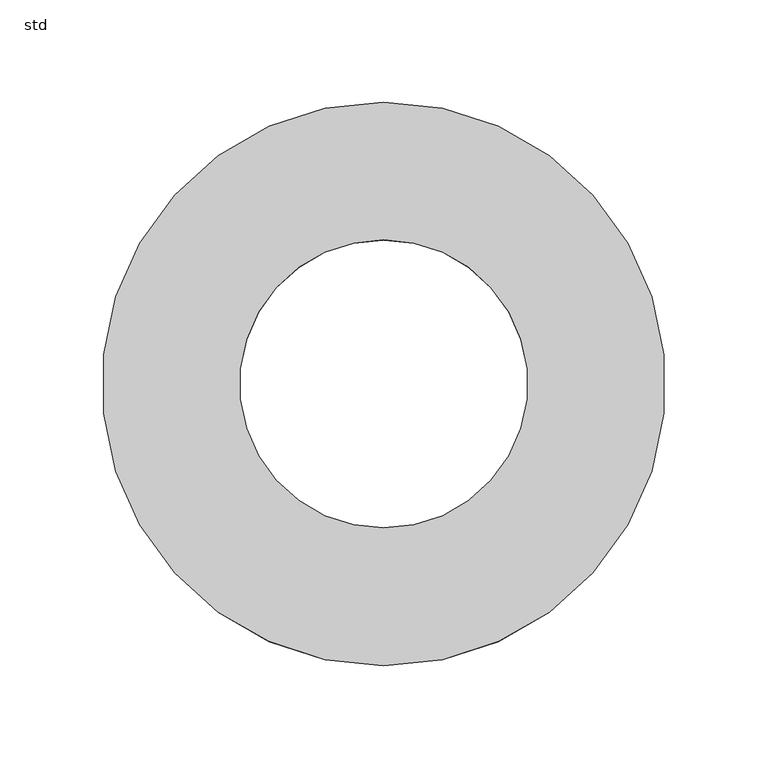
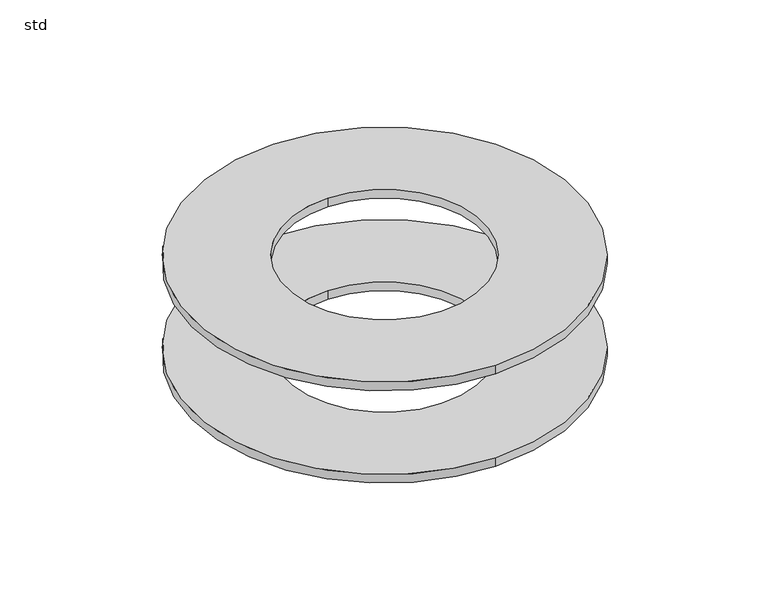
"""IFC4 building model written with IfcOpenShell, lengths in millimetres: sanitary terminal geometry, PF_GEN_UN_double body with grating DN50 Passavant Jet_ACO : std."""

from ifc_helpers import new_model, si_unit, point, frame, origin, origin_2d, place, context, project, spatial, circle_curve, trimmed, segment, composite_curve, outline, extrude, source, transform, mapped, element, save


def std_ecaa86e3(model_context):
    return source(origin(), model_context, "Body", "SweptSolid", [
        extrude(outline(composite_curve([segment(trimmed(circle_curve(origin_2d(), 138.0), [point((0.0, -138.0))], [point((0.0, 138.0))], False, "CARTESIAN"), True, "CONTINUOUS"), segment(trimmed(circle_curve(origin_2d(), 138.0), [point((0.0, 138.0))], [point((0.0, -138.0))], False, "CARTESIAN"), True, "CONTINUOUS")], self_intersect=False), holes=[composite_curve([segment(trimmed(circle_curve(origin_2d(), 70.5), [point((0.0, -70.5))], [point((0.0, 70.5))], True, "CARTESIAN"), True, "CONTINUOUS"), segment(trimmed(circle_curve(origin_2d(), 70.5), [point((0.0, 70.5))], [point((0.0, -70.5))], True, "CARTESIAN"), True, "CONTINUOUS")], self_intersect=False)]), frame((0.0, 0.0, 79.0), z_axis=(0.0, 0.0, 1.0), x_axis=(1.0, 0.0, 0.0)), (0.0, 0.0, 1.0), 6.5),
        extrude(outline(composite_curve([segment(trimmed(circle_curve(origin_2d(), 138.0), [point((0.0, -138.0))], [point((0.0, 138.0))], False, "CARTESIAN"), True, "CONTINUOUS"), segment(trimmed(circle_curve(origin_2d(), 138.0), [point((0.0, 138.0))], [point((0.0, -138.0))], False, "CARTESIAN"), True, "CONTINUOUS")], self_intersect=False), holes=[composite_curve([segment(trimmed(circle_curve(origin_2d(), 70.5), [point((0.0, -70.5))], [point((0.0, 70.5))], True, "CARTESIAN"), True, "CONTINUOUS"), segment(trimmed(circle_curve(origin_2d(), 70.5), [point((0.0, 70.5))], [point((0.0, -70.5))], True, "CARTESIAN"), True, "CONTINUOUS")], self_intersect=False)]), frame((0.0, 0.0, 9.0), z_axis=(0.0, 0.0, 1.0), x_axis=(1.0, 0.0, 0.0)), (0.0, 0.0, 1.0), 6.5),
    ])


if __name__ == "__main__":
    model = new_model("IFC4")
    model_context = context("Model", 3, world=origin())
    ifc_project = project(units=[si_unit("LENGTHUNIT", "METRE", prefix="MILLI")], contexts=[model_context])
    site = spatial("IfcSite", under=ifc_project)
    building = spatial("IfcBuilding", under=site)
    placement = place(None, origin())
    std_shape = std_ecaa86e3(model_context)
    element("IfcSanitaryTerminal", 1, ObjectType="PF_GEN_UN_double body with grating DN50 Passavant Jet_ACO : std", at=placement, inside=building, context=model_context, shape_type="MappedRepresentation", body=[
        mapped(std_shape, transform((0.0, 0.0, 0.0), x_axis=(1.0, 0.0, 0.0), y_axis=(0.0, 1.0, 0.0), z_axis=(0.0, 0.0, 1.0))),
    ])
    save(model, "model.ifc")
